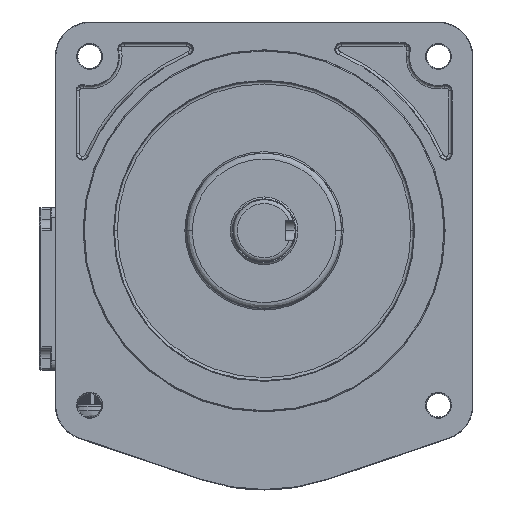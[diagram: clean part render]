
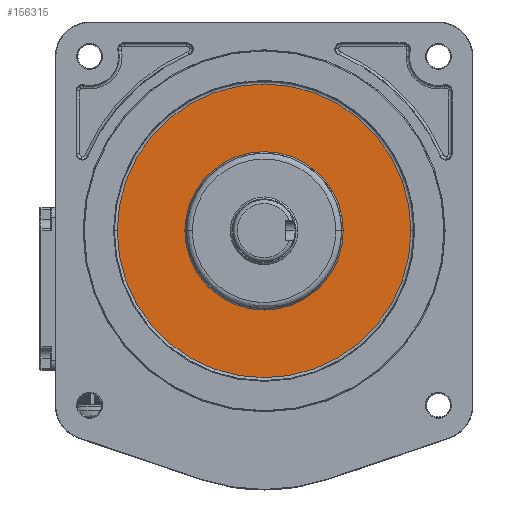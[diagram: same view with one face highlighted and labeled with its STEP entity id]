
A CAD part, top view. The second image highlights one B-rep face of the part: STEP entity #156315.
In plain terms, the highlighted planar face has unit normal (0, 0, 1).
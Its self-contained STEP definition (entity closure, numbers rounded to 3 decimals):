
#6038 = VERTEX_POINT ( 'NONE', #67159 ) ;
#6040 = VERTEX_POINT ( 'NONE', #67181 ) ;
#6129 = VERTEX_POINT ( 'NONE', #67820 ) ;
#6133 = VERTEX_POINT ( 'NONE', #67854 ) ;
#35246 = AXIS2_PLACEMENT_3D ( 'NONE', #66228, #66229, #66230 ) ;
#35268 = AXIS2_PLACEMENT_3D ( 'NONE', #66627, #66629, #66631 ) ;
#35352 = AXIS2_PLACEMENT_3D ( 'NONE', #69300, #69302, #69304 ) ;
#35455 = AXIS2_PLACEMENT_3D ( 'NONE', #72390, #72391, #72392 ) ;
#62279 = FACE_BOUND ( 'NONE', #141687, .T. ) ;
#62296 = FACE_OUTER_BOUND ( 'NONE', #141693, .T. ) ;
#62298 = AXIS2_PLACEMENT_3D ( 'NONE', #78164, #78166, #78168 ) ;
#66228 = CARTESIAN_POINT ( 'NONE',  ( 0., 30., 114. ) ) ;
#66229 = DIRECTION ( 'NONE',  ( 0., 0., 1. ) ) ;
#66230 = DIRECTION ( 'NONE',  ( 1., 0., 0. ) ) ;
#66627 = CARTESIAN_POINT ( 'NONE',  ( 0., 30., 114. ) ) ;
#66629 = DIRECTION ( 'NONE',  ( 0., 0., 1. ) ) ;
#66631 = DIRECTION ( 'NONE',  ( -1., 0., 0. ) ) ;
#67159 = CARTESIAN_POINT ( 'NONE',  ( 25.464, 30., 114. ) ) ;
#67181 = CARTESIAN_POINT ( 'NONE',  ( -25.464, 30., 114. ) ) ;
#67820 = CARTESIAN_POINT ( 'NONE',  ( 75.929, 30., 114. ) ) ;
#67854 = CARTESIAN_POINT ( 'NONE',  ( -75.929, 30., 114. ) ) ;
#69300 = CARTESIAN_POINT ( 'NONE',  ( 0., 30., 114. ) ) ;
#69302 = DIRECTION ( 'NONE',  ( 0., 0., 1. ) ) ;
#69304 = DIRECTION ( 'NONE',  ( 1., 0., 0. ) ) ;
#72390 = CARTESIAN_POINT ( 'NONE',  ( 0., 30., 114. ) ) ;
#72391 = DIRECTION ( 'NONE',  ( 0., 0., 1. ) ) ;
#72392 = DIRECTION ( 'NONE',  ( -1., 0., 0. ) ) ;
#78162 = PLANE ( 'NONE',  #62298 ) ;
#78164 = CARTESIAN_POINT ( 'NONE',  ( 90., 120., 114. ) ) ;
#78166 = DIRECTION ( 'NONE',  ( 0., 0., 1. ) ) ;
#78168 = DIRECTION ( 'NONE',  ( 1., 0., 0. ) ) ;
#117949 = EDGE_CURVE ( 'NONE', #6133, #6129, #154558, .T. ) ;
#117985 = EDGE_CURVE ( 'NONE', #6040, #6038, #154644, .T. ) ;
#118121 = EDGE_CURVE ( 'NONE', #6129, #6133, #154943, .T. ) ;
#118229 = EDGE_CURVE ( 'NONE', #6038, #6040, #155097, .T. ) ;
#141687 = EDGE_LOOP ( 'NONE', ( #169025, #169031 ) ) ;
#141693 = EDGE_LOOP ( 'NONE', ( #168985, #168987 ) ) ;
#154558 = CIRCLE ( 'NONE', #35246, 75.929 ) ;
#154644 = CIRCLE ( 'NONE', #35268, 25.464 ) ;
#154943 = CIRCLE ( 'NONE', #35352, 75.929 ) ;
#155097 = CIRCLE ( 'NONE', #35455, 25.464 ) ;
#156315 = ADVANCED_FACE ( 'NONE', ( #62279, #62296 ), #78162, .T. ) ;
#168985 = ORIENTED_EDGE ( 'NONE', *, *, #118121, .T. ) ;
#168987 = ORIENTED_EDGE ( 'NONE', *, *, #117949, .T. ) ;
#169025 = ORIENTED_EDGE ( 'NONE', *, *, #117985, .F. ) ;
#169031 = ORIENTED_EDGE ( 'NONE', *, *, #118229, .F. ) ;
